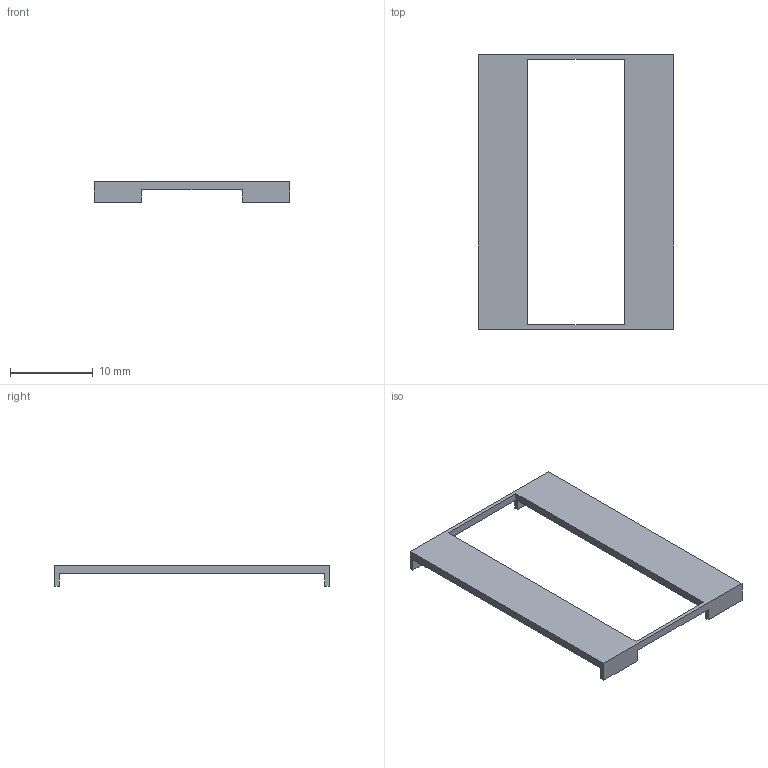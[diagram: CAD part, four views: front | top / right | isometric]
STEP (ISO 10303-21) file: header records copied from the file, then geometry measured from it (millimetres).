
FILE_DESCRIPTION(('Open CASCADE Model'),'2;1');
FILE_NAME('Open CASCADE Shape Model','2026-05-31T19:44:12',('Author'),( 'Open CASCADE'),'Open CASCADE STEP processor 7.6','Open CASCADE 7.6' ,'Unknown');
FILE_SCHEMA(('AP242_MANAGED_MODEL_BASED_3D_ENGINEERING_MIM_LF. {1 0 10303 442 1 1 4 }'));
Length unit declared in the file: millimetre
Products named in the file (1): Open CASCADE STEP translator 7.6 8
Bounding box: 23.6 x 33.1 x 2.5 mm (x, y, z)
Volume: 406.2 mm3; surface area: 1085.9 mm2
Topology: 1 solids, 1 shells, 22 faces, 60 edges, 40 vertices
Faces by surface type: plane 22
Entity records: 1478 total; most frequent: CARTESIAN_POINT 243, DIRECTION 226, LINE 180, VECTOR 180, ORIENTED_EDGE 120, PCURVE 120, DEFINITIONAL_REPRESENTATION 120, EDGE_CURVE 60
